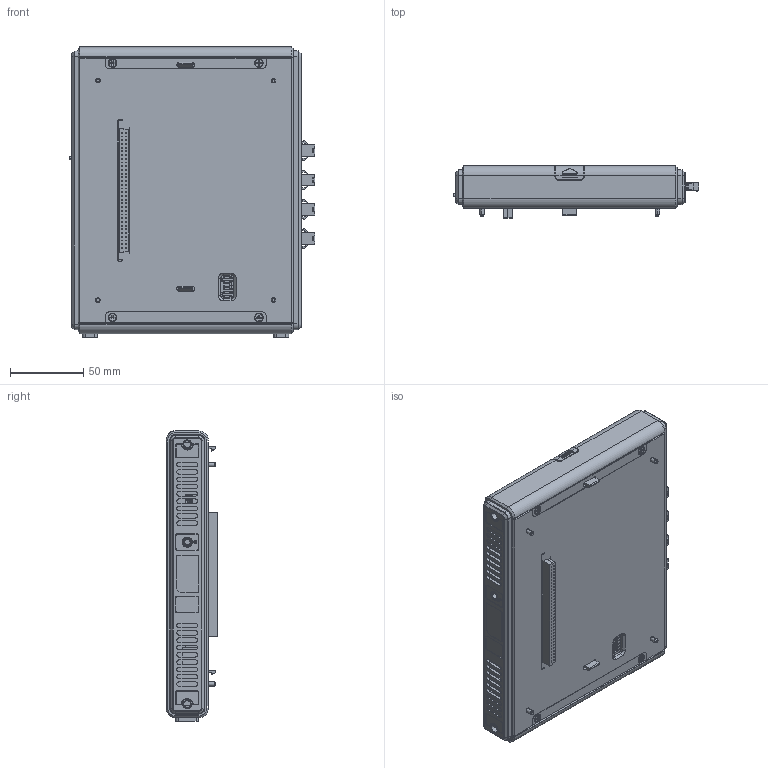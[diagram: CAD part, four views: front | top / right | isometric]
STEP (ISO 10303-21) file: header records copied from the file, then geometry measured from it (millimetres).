
FILE_DESCRIPTION((''),'2;1');
FILE_NAME('0-C_MODULE1_ASM','2020-05-11T16:22:33',('wanggangqiang'),(''),'CREO PARAMETRIC BY PTC INC, 2017260','CREO PARAMETRIC BY PTC INC, 2017260','');
FILE_SCHEMA(('CONFIG_CONTROL_DESIGN'));
Products named in the file (1): 0-C_MODULE1_ASM
Bounding box: 168 x 35.5 x 198.74 mm (x, y, z)
Volume: 769465.3 mm3; surface area: 158853.6 mm2
Topology: 64 solids, 94 shells, 4525 faces, 12150 edges, 7983 vertices
Faces by surface type: plane 3677, cylinder 573, cone 131, extrusion 87, torus 43, bspline 14
Entity records: 144422 total; most frequent: CARTESIAN_POINT 30367, ORIENTED_EDGE 24280, DIRECTION 21943, EDGE_CURVE 12140, VECTOR 10369, LINE 10282, VERTEX_POINT 7983, AXIS2_PLACEMENT_3D 5787
